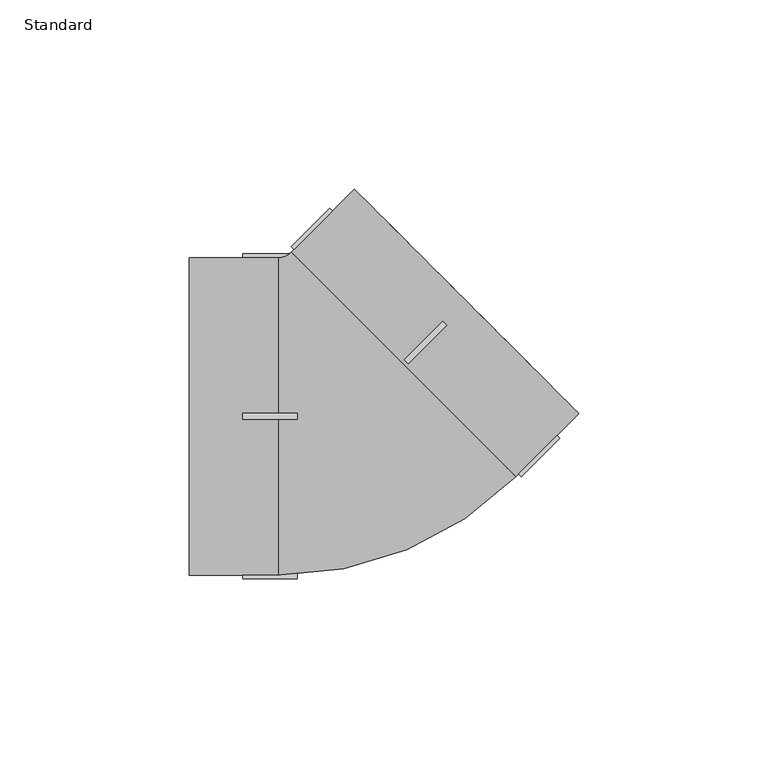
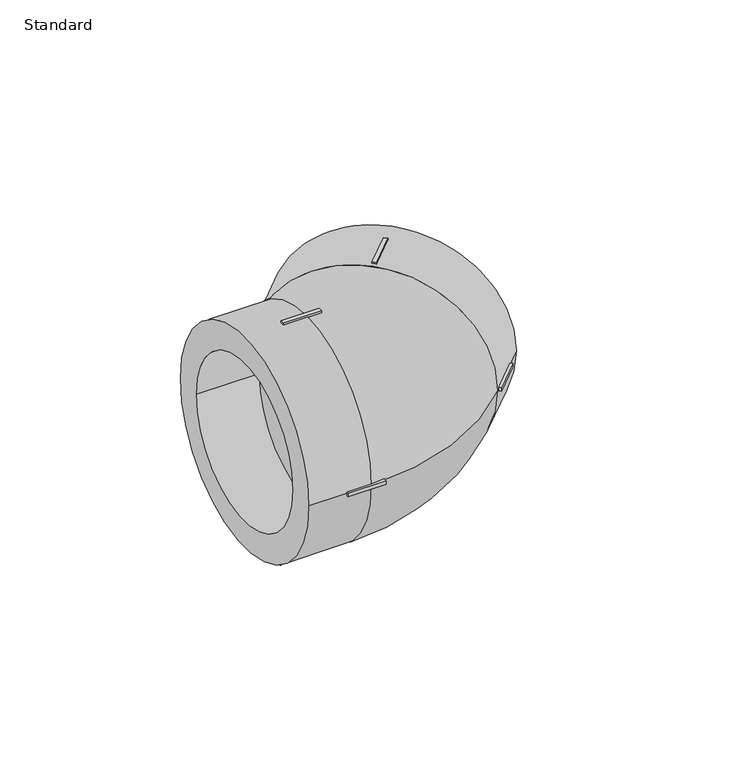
"""IFC4 building model written with IfcOpenShell, lengths in millimetres: pipe fitting geometry, EGB_VASEN_ PPR_Codo 90 WXR200_Codo 45 WXR220  : Standard."""

import ifcopenshell
import ifcopenshell.guid

model = None  # the IFC model being written
_history = None  # IfcOwnerHistory: only IFC2X3 demands one
_inside = {}  # id of a spatial element -> (the spatial element, [elements in it])
_under = {}  # id of a project, library or spatial element -> (it, [spatial elements below it])
_declared = {}  # id of a project -> (the project, [libraries it declares])
_typed = {}  # id of a type object -> (the type object, [elements of that type])
_made_of = {}  # id of a material, layer set ... -> (it, [elements and type objects made of it])


def new_model(schema):
    """Start an empty IFC model of exactly this schema.

    Asked for "IFC4X3", IfcOpenShell would pick the latest addendum, in which some entities
    have other attributes; the version numbers below select the first issue.
    IFC2X3 requires an IfcOwnerHistory on every rooted entity: one is made here for all.
    """
    global model, _history
    if schema == "IFC4X3":
        model = ifcopenshell.file(schema_version=(4, 3, 0, 0))
    else:
        model = ifcopenshell.file(schema=schema)
    _inside.clear()
    _under.clear()
    _declared.clear()
    _typed.clear()
    _made_of.clear()
    _history = None
    if model.schema == "IFC2X3":
        org = make("IfcOrganization", Name="unknown")
        user = make(
            "IfcPersonAndOrganization",
            ThePerson=make("IfcPerson", FamilyName="unknown"),
            TheOrganization=org,
        )
        app = make(
            "IfcApplication",
            ApplicationDeveloper=org,
            Version="unknown",
            ApplicationFullName="unknown",
            ApplicationIdentifier="unknown",
        )
        _history = make(
            "IfcOwnerHistory",
            OwningUser=user,
            OwningApplication=app,
            ChangeAction="ADDED",
            CreationDate=0,
        )
    return model


def make(cls, **values):
    """One entity of the class cls with the attributes given. An attribute that is None is left unset."""
    return model.create_entity(
        cls, **{name: value for name, value in values.items() if value is not None}
    )


def rooted(cls, **values):
    """An entity with a GlobalId (a new one), such as an element, a storey or a relation."""
    return make(cls, GlobalId=ifcopenshell.guid.new(), OwnerHistory=_history, **values)


def si_unit(unit_type, name, prefix=None):
    """IfcSIUnit, for example si_unit("LENGTHUNIT", "METRE", prefix="MILLI")."""
    return make("IfcSIUnit", UnitType=unit_type, Prefix=prefix, Name=name)


def assignment(units):
    """IfcUnitAssignment: the units of a project."""
    return None if units is None else make("IfcUnitAssignment", Units=units)


def point(xyz):
    """IfcCartesianPoint."""
    return None if xyz is None else make("IfcCartesianPoint", Coordinates=xyz)


def direction(xyz):
    """IfcDirection."""
    return None if xyz is None else make("IfcDirection", DirectionRatios=xyz)


def frame(location, z_axis=None, x_axis=None):
    """IfcAxis2Placement3D, a coordinate frame: its origin and axes. An axis left out is left unset."""
    return make(
        "IfcAxis2Placement3D",
        Location=point(location),
        Axis=direction(z_axis),
        RefDirection=direction(x_axis),
    )


def origin():
    """The frame at (0, 0, 0) with its axes left unset."""
    return frame((0.0, 0.0, 0.0))


def place(relative_to, where):
    """IfcLocalPlacement: puts the frame where relative to a parent placement (None: the world)."""
    return make(
        "IfcLocalPlacement", PlacementRelTo=relative_to, RelativePlacement=where
    )


def context(
    kind, dimensions, precision=None, world=None, true_north=None, identifier=None
):
    """IfcGeometricRepresentationContext, for example the 3D "Model" context."""
    return make(
        "IfcGeometricRepresentationContext",
        ContextIdentifier=identifier,
        ContextType=kind,
        CoordinateSpaceDimension=dimensions,
        Precision=precision,
        WorldCoordinateSystem=world,
        TrueNorth=true_north,
    )


def project(units=None, contexts=None):
    """IfcProject with its units and contexts."""
    return rooted(
        "IfcProject",
        Name="project",
        RepresentationContexts=contexts,
        UnitsInContext=assignment(units),
    )


def spatial(cls, under=None, at=None, **own):
    """A site, building, storey or space (cls), placed at a placement, below another one or the project."""
    s = rooted(cls, ObjectPlacement=at, **own)
    if under is not None:
        _under.setdefault(under.id(), (under, []))[1].append(s)
    return s


def polyline(points):
    """IfcPolyline through the points."""
    return make("IfcPolyline", Points=[point(p) for p in points])


def circle_curve(where, radius):
    """IfcCircle in the frame where."""
    return make("IfcCircle", Position=where, Radius=radius)


def ellipse_curve(where, semi_axis1, semi_axis2):
    """IfcEllipse in the frame where."""
    return make(
        "IfcEllipse", Position=where, SemiAxis1=semi_axis1, SemiAxis2=semi_axis2
    )


def trimmed(basis, trim1, trim2, sense, master):
    """IfcTrimmedCurve: the piece of a basis curve between two trims."""
    return make(
        "IfcTrimmedCurve",
        BasisCurve=basis,
        Trim1=trim1,
        Trim2=trim2,
        SenseAgreement=sense,
        MasterRepresentation=master,
    )


def outline(outer, holes=None, kind="AREA"):
    """IfcArbitraryClosedProfileDef: a profile drawn as a closed curve; with holes, ...WithVoids."""
    if holes is None:
        return make("IfcArbitraryClosedProfileDef", ProfileType=kind, OuterCurve=outer)
    return make(
        "IfcArbitraryProfileDefWithVoids",
        ProfileType=kind,
        OuterCurve=outer,
        InnerCurves=holes,
    )


def extrude(swept, where, along, depth):
    """IfcExtrudedAreaSolid: the profile swept, set in the frame where, extruded along a direction by depth."""
    return make(
        "IfcExtrudedAreaSolid",
        SweptArea=swept,
        Position=where,
        ExtrudedDirection=direction(along),
        Depth=depth,
    )


def shape(context_of_items, identifier, shape_type, items):
    """IfcShapeRepresentation: the items that make up one representation, for example the "Body"."""
    return make(
        "IfcShapeRepresentation",
        ContextOfItems=context_of_items,
        RepresentationIdentifier=identifier,
        RepresentationType=shape_type,
        Items=items,
    )


def source(mapping_origin, context_of_items, identifier, shape_type, items):
    """IfcRepresentationMap: a shape defined once, which mapped items show again and again."""
    return make(
        "IfcRepresentationMap",
        MappingOrigin=mapping_origin,
        MappedRepresentation=shape(context_of_items, identifier, shape_type, items),
    )


def transform(
    local_origin,
    x_axis=None,
    y_axis=None,
    z_axis=None,
    scale=None,
    scale2=None,
    scale3=None,
    uniform=True,
):
    """IfcCartesianTransformationOperator3D, or its non-uniform kind. x_axis, y_axis, z_axis: its Axis1, 2, 3."""
    if uniform:
        return make(
            "IfcCartesianTransformationOperator3D",
            Axis1=direction(x_axis),
            Axis2=direction(y_axis),
            LocalOrigin=point(local_origin),
            Scale=scale,
            Axis3=direction(z_axis),
        )
    return make(
        "IfcCartesianTransformationOperator3DnonUniform",
        Axis1=direction(x_axis),
        Axis2=direction(y_axis),
        LocalOrigin=point(local_origin),
        Scale=scale,
        Axis3=direction(z_axis),
        Scale2=scale2,
        Scale3=scale3,
    )


def mapped(mapping_source, mapping_target):
    """IfcMappedItem: shows the shape of a source again, moved by a transform."""
    return make(
        "IfcMappedItem", MappingSource=mapping_source, MappingTarget=mapping_target
    )


def made_of(thing, what):
    """Note that an element or type object is made of a material, layer set ...; save() writes the relation."""
    if what is not None:
        _made_of.setdefault(what.id(), (what, []))[1].append(thing)
    return thing


def element(
    cls,
    number,
    at=None,
    inside=None,
    cuts=None,
    type_object=None,
    material=None,
    context=None,
    identifier="Body",
    shape_type=None,
    held_by="IfcProductDefinitionShape",
    body=None,
    shapes=None,
    **own,
):
    """One element of the class cls, such as IfcWall. Its Tag is "e" and its number.

    at: its placement. inside: the storey or other place that contains it. cuts: it is an
    opening in that element (IfcRelVoidsElement). A single representation is given by context,
    identifier, shape_type and body (its items); several are given by shapes. held_by: the class
    of the entity that holds the representations. save() writes the other relations.
    """
    e = rooted(cls, Tag="e%d" % number, ObjectPlacement=at, **own)
    if body is not None:
        shapes = [shape(context, identifier, shape_type, body)]
    if shapes is not None:
        e.Representation = make(held_by, Representations=shapes)
    if inside is not None:
        _inside.setdefault(inside.id(), (inside, []))[1].append(e)
    if cuts is not None:
        rooted(
            "IfcRelVoidsElement", RelatingBuildingElement=cuts, RelatedOpeningElement=e
        )
    if type_object is not None:
        _typed.setdefault(type_object.id(), (type_object, []))[1].append(e)
    return made_of(e, material)


def aggregate(whole, parts):
    """IfcRelAggregates: a whole, such as a stair, and the parts it consists of."""
    return rooted("IfcRelAggregates", RelatingObject=whole, RelatedObjects=parts)


def save(model, path):
    """Write the relations noted so far, then the file.

    IfcRelAggregates (storeys below a building ...), IfcRelContainedInSpatialStructure (elements
    in a storey), IfcRelDefinesByType, IfcRelAssociatesMaterial and IfcRelDeclares: one each for
    every whole, place, type object, material and project.
    """
    for whole, parts in _under.values():
        aggregate(whole, parts)
    for where, things in _inside.values():
        rooted(
            "IfcRelContainedInSpatialStructure",
            RelatedElements=things,
            RelatingStructure=where,
        )
    for kind, things in _typed.values():
        rooted("IfcRelDefinesByType", RelatedObjects=things, RelatingType=kind)
    for what, things in _made_of.values():
        rooted("IfcRelAssociatesMaterial", RelatedObjects=things, RelatingMaterial=what)
    for by, libraries in _declared.values():
        rooted("IfcRelDeclares", RelatingContext=by, RelatedDefinitions=libraries)
    model.write(path)


def plane_surface(at):
    """IfcPlane: the flat surface through the origin of the frame at, square to its z axis."""
    return make("IfcPlane", Position=at)


def cylinder_surface(at, radius):
    """IfcCylindricalSurface: all points at the distance radius from the z axis of the frame at."""
    return make("IfcCylindricalSurface", Position=at, Radius=radius)


def revolved_surface(curve, axis_point, axis_direction):
    """IfcSurfaceOfRevolution: the curve turned about the line through axis_point along axis_direction."""
    return make(
        "IfcSurfaceOfRevolution",
        SweptCurve=make("IfcArbitraryOpenProfileDef", ProfileType="CURVE", Curve=curve),
        AxisPosition=make("IfcAxis1Placement", Location=point(axis_point), Axis=direction(axis_direction)),
    )


def advanced_brep(points, edges, surfaces, faces):
    """IfcAdvancedBrep: a solid bounded by faces that lie on surfaces and meet in shared edges.

    An edge is (start, end): straight between two places in points (the first is 0);
    or (start, end, curve); or (start, end, curve, False) where it runs against its curve.
    A face is (place in surfaces, loops), or (place, loops, False) where it looks against
    its surface's normal. A loop lists edges by number (the first is 1), with a minus sign
    where the edge is run from its end to its start. The first loop is the outer one.
    """
    corners = [point(p) for p in points]
    vertices = [make("IfcVertexPoint", VertexGeometry=c) for c in corners]
    made = []
    for start, end, *more in edges:
        made.append(
            make(
                "IfcEdgeCurve",
                EdgeStart=vertices[start],
                EdgeEnd=vertices[end],
                EdgeGeometry=more[0] if more else make("IfcPolyline", Points=[corners[start], corners[end]]),
                SameSense=more[1] if len(more) > 1 else True,
            )
        )
    hull = []
    for where, loops, *sense in faces:
        bounds = []
        for j, loop in enumerate(loops):
            ring = [make("IfcOrientedEdge", EdgeElement=made[abs(k) - 1], Orientation=k > 0) for k in loop]
            bounds.append(
                make(
                    "IfcFaceOuterBound" if j == 0 else "IfcFaceBound",
                    Bound=make("IfcEdgeLoop", EdgeList=ring),
                    Orientation=True,
                )
            )
        hull.append(make("IfcAdvancedFace", Bounds=bounds, FaceSurface=surfaces[where], SameSense=sense[0] if sense else True))
    return make("IfcAdvancedBrep", Outer=make("IfcClosedShell", CfsFaces=hull))


def standard_11004cd4(model_context):
    return source(origin(), model_context, "Body", "SolidModel", [
        advanced_brep(
        [(-43.0, -42.0, 0.0), (-43.0, 42.0, 0.0), (-43.0, -31.5, 0.0), (-43.0, 31.5, 0.0), (-19.3969696, -42.0, 0.0), (-19.3969696, 42.0, 0.0), (-19.3969696, -31.5, 0.0), (-19.3969696, 31.5, 0.0), (35.9895924, -8.5581349, 0.0), (-8.5581349, 35.9895924, 0.0), (-15.9827561, 43.4142136, 0.0), (43.4142136, -15.9827561, 0.0), (60.1040764, 0.7071068, 0.0), (0.7071068, 60.1040764, 0.0), (52.6794552, 8.131728, 0.0), (8.131728, 52.6794552, 0.0)],
        [
            (0, 1, circle_curve(frame((-43.0, 0.0, 0.0), z_axis=(-1.0, 0.0, 0.0), x_axis=(0.0, 1.0, 0.0)), 42.0)),
            (1, 0, circle_curve(frame((-43.0, 0.0, 0.0), z_axis=(-1.0, 0.0, 0.0), x_axis=(0.0, 1.0, 0.0)), 42.0)),
            (2, 3, circle_curve(frame((-43.0, 0.0, 0.0), z_axis=(1.0, 0.0, 0.0), x_axis=(0.0, 1.0, 0.0)), 31.5)),
            (3, 2, circle_curve(frame((-43.0, 0.0, 0.0), z_axis=(1.0, 0.0, 0.0), x_axis=(0.0, 1.0, 0.0)), 31.5)),
            (0, 4),
            (4, 5, circle_curve(frame((-19.3969696, 0.0, 0.0), z_axis=(-1.0, 0.0, 0.0), x_axis=(0.0, 1.0, 0.0)), 42.0)),
            (5, 1),
            (5, 4, circle_curve(frame((-19.3969696, 0.0, 0.0), z_axis=(-1.0, 0.0, 0.0), x_axis=(0.0, 1.0, 0.0)), 42.0)),
            (2, 6),
            (6, 7, circle_curve(frame((-19.3969696, 0.0, 0.0), z_axis=(1.0, 0.0, 0.0), x_axis=(0.0, 1.0, 0.0)), 31.5)),
            (7, 3),
            (7, 6, circle_curve(frame((-19.3969696, 0.0, 0.0), z_axis=(1.0, 0.0, 0.0), x_axis=(0.0, 1.0, 0.0)), 31.5)),
            (8, 9, circle_curve(frame((13.7157288, 13.7157288, 0.0), z_axis=(0.707106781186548, 0.7071067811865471, 0.0), x_axis=(-0.7071067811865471, 0.707106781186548, 0.0)), 31.5)),
            (9, 8, circle_curve(frame((13.7157288, 13.7157288, 0.0), z_axis=(0.707106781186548, 0.7071067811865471, 0.0), x_axis=(-0.7071067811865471, 0.707106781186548, 0.0)), 31.5)),
            (10, 5, circle_curve(frame((-19.3969696, 46.8284271, 0.0), z_axis=(0.0, 0.0, -1.0), x_axis=(0.0, -1.0, 0.0)), 4.8284271)),
            (4, 11, circle_curve(frame((-19.3969696, 46.8284271, 0.0), z_axis=(0.0, 0.0, 1.0), x_axis=(0.0, -1.0, 0.0)), 88.8284271)),
            (11, 10, circle_curve(frame((13.7157288, 13.7157288, 0.0), z_axis=(-0.7071067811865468, -0.7071067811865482, 0.0), x_axis=(-0.7071067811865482, 0.7071067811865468, 0.0)), 42.0)),
            (10, 11, circle_curve(frame((13.7157288, 13.7157288, 0.0), z_axis=(-0.7071067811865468, -0.7071067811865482, 0.0), x_axis=(-0.7071067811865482, 0.7071067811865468, 0.0)), 42.0)),
            (12, 13, circle_curve(frame((30.4055916, 30.4055916, 0.0), z_axis=(0.707106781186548, 0.7071067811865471, 0.0), x_axis=(-0.7071067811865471, 0.707106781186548, 0.0)), 42.0)),
            (13, 12, circle_curve(frame((30.4055916, 30.4055916, 0.0), z_axis=(0.707106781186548, 0.7071067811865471, 0.0), x_axis=(-0.7071067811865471, 0.707106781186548, 0.0)), 42.0)),
            (14, 15, circle_curve(frame((30.4055916, 30.4055916, 0.0), z_axis=(-0.707106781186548, -0.7071067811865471, 0.0), x_axis=(-0.7071067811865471, 0.707106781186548, 0.0)), 31.5)),
            (15, 14, circle_curve(frame((30.4055916, 30.4055916, 0.0), z_axis=(-0.707106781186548, -0.7071067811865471, 0.0), x_axis=(-0.7071067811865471, 0.707106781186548, 0.0)), 31.5)),
            (13, 10),
            (11, 12),
            (15, 9),
            (8, 14),
        ],
        [
            plane_surface(frame((-43.0, 0.0, 0.0), z_axis=(-1.0, 0.0, 0.0), x_axis=(0.0, 0.0, 1.0))),
            cylinder_surface(frame((-43.0, 0.0, 0.0), z_axis=(-1.0, 0.0, 0.0), x_axis=(0.0, 1.0, 0.0)), 42.0),
            revolved_surface(polyline([(-19.3969696, 31.5, 0.0), (-43.0, 31.5, 0.0)]), (-43.0, 0.0, 0.0), (1.0, 0.0, 0.0)),
            plane_surface(frame((-19.3969696, 0.0, 0.0), z_axis=(-1.0, 0.0, 0.0), x_axis=(0.0, 0.0, 1.0))),
            plane_surface(frame((13.7157288, 13.7157288, 0.0), z_axis=(0.7071067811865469, 0.7071067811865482, 0.0), x_axis=(0.0, 0.0, 1.0))),
            revolved_surface(trimmed(ellipse_curve(frame((-19.3969696, 0.0, 0.0), z_axis=(-1.0, 0.0, 0.0), x_axis=(0.0, 1.0, 0.0)), 42.0, 42.0), [point((-19.3969696, -42.0, 0.0))], [point((-19.3969696, 42.0, 0.0))], True, "CARTESIAN"), (-19.3969696, 46.8284271, 0.0), (0.0, 0.0, 1.0)),
            revolved_surface(trimmed(ellipse_curve(frame((-19.3969696, 0.0, 0.0), z_axis=(-1.0, 0.0, 0.0), x_axis=(0.0, 1.0, 0.0)), 42.0, 42.0), [point((-19.3969696, 42.0, 0.0))], [point((-19.3969696, -42.0, 0.0))], True, "CARTESIAN"), (-19.3969696, 46.8284271, 0.0), (0.0, 0.0, 1.0)),
            plane_surface(frame((30.4055916, 30.4055916, 0.0), z_axis=(0.707106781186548, 0.7071067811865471, 0.0), x_axis=(0.0, 0.0, 1.0))),
            cylinder_surface(frame((13.7157288, 13.7157288, 0.0), z_axis=(-0.707106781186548, -0.7071067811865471, 0.0), x_axis=(-0.7071067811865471, 0.707106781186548, 0.0)), 42.0),
            revolved_surface(polyline([(8.13172799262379, 52.679455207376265, 0.0), (-8.558134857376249, 35.989592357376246, 0.0)]), (13.7157288, 13.7157288, 0.0), (0.707106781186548, 0.7071067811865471, 0.0)),
        ],
        [
            (0, [[1, 2], [3, 4]]),
            (1, [[-1, 5, 6, 7]]),
            (1, [[-2, -7, 8, -5]]),
            (2, [[-3, 9, 10, 11]]),
            (2, [[-4, -11, 12, -9]]),
            (3, [[-10, -12]]),
            (4, [[13, 14]]),
            (5, [[15, -6, 16, 17]]),
            (6, [[-15, 18, -16, -8]]),
            (7, [[19, 20], [21, 22]]),
            (8, [[-20, 23, -17, 24]]),
            (8, [[-19, -24, -18, -23]]),
            (9, [[-22, 25, -13, 26]]),
            (9, [[-21, -26, -14, -25]]),
        ],
    ),
        extrude(outline(polyline([(14.9531656, 13.8925054), (13.8925054, 14.9531656), (24.0748431, 25.1355033), (25.1355033, 24.0748431), (14.9531656, 13.8925054)])), frame((0.0, 0.0, 41.0), z_axis=(0.0, 0.0, 1.0), x_axis=(1.0, 0.0, 0.0)), (0.0, 0.0, 1.0), 2.0),
        extrude(outline(polyline([(-14.5685425, 43.4142136), (-15.9827561, 44.8284271), (-5.8004184, 55.0107648), (-4.3862048, 53.5965512), (-14.5685425, 43.4142136)])), frame((0.0, 0.0, -0.75), z_axis=(0.0, 0.0, 1.0), x_axis=(1.0, 0.0, 0.0)), (0.0, 0.0, 1.0), 1.5),
        extrude(outline(polyline([(44.8284271, -15.9827561), (43.4142136, -14.5685425), (53.5965512, -4.3862048), (55.0107648, -5.8004184), (44.8284271, -15.9827561)])), frame((0.0, 0.0, -0.75), z_axis=(0.0, 0.0, 1.0), x_axis=(1.0, 0.0, 0.0)), (0.0, 0.0, 1.0), 1.5),
        extrude(outline(polyline([(14.9531656, 13.8925054), (13.8925054, 14.9531656), (24.0748431, 25.1355033), (25.1355033, 24.0748431), (14.9531656, 13.8925054)])), frame((0.0, 0.0, -43.0), z_axis=(0.0, 0.0, 1.0), x_axis=(1.0, 0.0, 0.0)), (0.0, 0.0, 1.0), 2.0),
        extrude(outline(polyline([(-14.3969696, 0.75), (-14.3969696, -0.75), (-28.7969696, -0.75), (-28.7969696, 0.75), (-14.3969696, 0.75)])), frame((0.0, 0.0, 41.0), z_axis=(0.0, 0.0, 1.0), x_axis=(1.0, 0.0, 0.0)), (0.0, 0.0, 1.0), 2.0),
        extrude(outline(polyline([(-14.3969696, 0.75), (-14.3969696, -0.75), (-28.7969696, -0.75), (-28.7969696, 0.75), (-14.3969696, 0.75)])), frame((0.0, 0.0, -43.0), z_axis=(0.0, 0.0, 1.0), x_axis=(1.0, 0.0, 0.0)), (0.0, 0.0, 1.0), 2.0),
        extrude(outline(polyline([(-14.3969696, 43.0), (-14.3969696, 41.0), (-28.7969696, 41.0), (-28.7969696, 43.0), (-14.3969696, 43.0)])), frame((0.0, 0.0, -0.75), z_axis=(0.0, 0.0, 1.0), x_axis=(1.0, 0.0, 0.0)), (0.0, 0.0, 1.0), 1.5),
        extrude(outline(polyline([(-14.3969696, -41.0), (-14.3969696, -43.0), (-28.7969696, -43.0), (-28.7969696, -41.0), (-14.3969696, -41.0)])), frame((0.0, 0.0, -0.75), z_axis=(0.0, 0.0, 1.0), x_axis=(1.0, 0.0, 0.0)), (0.0, 0.0, 1.0), 1.5),
    ])


if __name__ == "__main__":
    model = new_model("IFC4")
    model_context = context("Model", 3, world=origin())
    ifc_project = project(units=[si_unit("LENGTHUNIT", "METRE", prefix="MILLI")], contexts=[model_context])
    site = spatial("IfcSite", under=ifc_project)
    building = spatial("IfcBuilding", under=site)
    placement = place(None, origin())
    standard_shape = standard_11004cd4(model_context)
    element("IfcPipeFitting", 1, ObjectType="EGB_VASEN_ PPR_Codo 90 WXR200_Codo 45 WXR220  : Standard", at=placement, inside=building, context=model_context, shape_type="MappedRepresentation", body=[
        mapped(standard_shape, transform((0.0, 0.0, 0.0), x_axis=(1.0, 0.0, 0.0), y_axis=(0.0, 1.0, 0.0), z_axis=(0.0, 0.0, 1.0))),
    ])
    save(model, "model.ifc")
